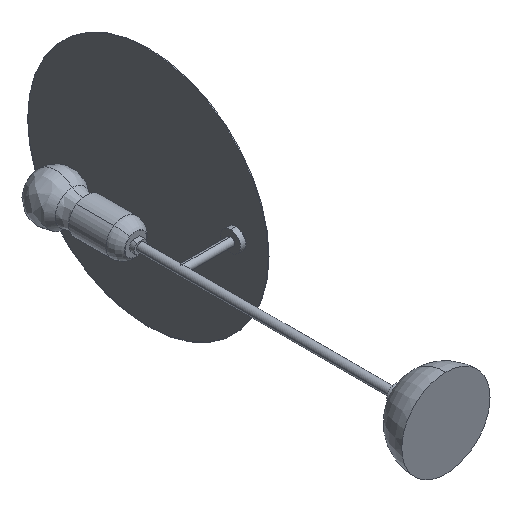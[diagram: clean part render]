
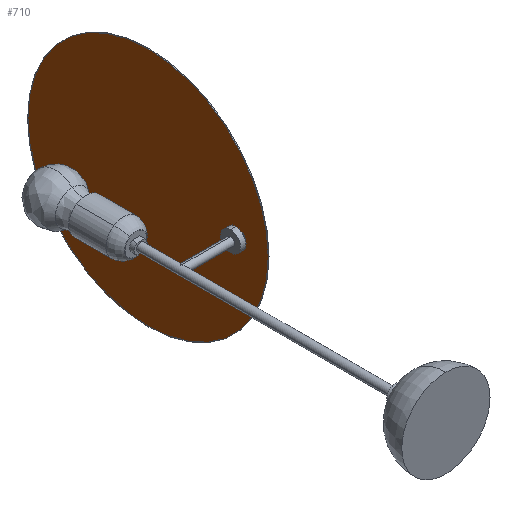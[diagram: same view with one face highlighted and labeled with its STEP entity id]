
A CAD part, isometric view. The second image highlights one B-rep face of the part: STEP entity #710.
In plain terms, the highlighted planar face has unit normal (-1, 0, 0).
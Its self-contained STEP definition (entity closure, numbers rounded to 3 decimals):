
#73 = CARTESIAN_POINT ( 'NONE',  ( 68.5, 330.5, 2.1 ) ) ;
#88 = CARTESIAN_POINT ( 'NONE',  ( 68.5, 340., -1.6 ) ) ;
#98 = CIRCLE ( 'NONE', #4547, 150. ) ;
#159 = PLANE ( 'NONE',  #741 ) ;
#172 = CARTESIAN_POINT ( 'NONE',  ( 68.5, 440., 0. ) ) ;
#226 = EDGE_LOOP ( 'NONE', ( #370, #1546 ) ) ;
#267 = EDGE_CURVE ( 'NONE', #1694, #2082, #3041, .T. ) ;
#268 = CARTESIAN_POINT ( 'NONE',  ( 68.5, 440., 0. ) ) ;
#301 = DIRECTION ( 'NONE',  ( 0., 0., -1. ) ) ;
#370 = ORIENTED_EDGE ( 'NONE', *, *, #1932, .F. ) ;
#570 = DIRECTION ( 'NONE',  ( 0., 0., -1. ) ) ;
#648 = CARTESIAN_POINT ( 'NONE',  ( 68.5, 340., 1.6 ) ) ;
#668 = DIRECTION ( 'NONE',  ( 0., 0., -1. ) ) ;
#710 = ADVANCED_FACE ( 'NONE', ( #2888, #744, #4863 ), #159, .F. ) ;
#741 = AXIS2_PLACEMENT_3D ( 'NONE', #172, #2955, #570 ) ;
#744 = FACE_BOUND ( 'NONE', #3409, .T. ) ;
#813 = DIRECTION ( 'NONE',  ( -1., 0., 0. ) ) ;
#884 = ORIENTED_EDGE ( 'NONE', *, *, #4249, .F. ) ;
#958 = CIRCLE ( 'NONE', #1615, 2.1 ) ;
#1027 = EDGE_CURVE ( 'NONE', #4960, #2885, #3820, .T. ) ;
#1147 = DIRECTION ( 'NONE',  ( -1., 0., 0. ) ) ;
#1208 = CARTESIAN_POINT ( 'NONE',  ( 68.5, 330.5, 0. ) ) ;
#1249 = VERTEX_POINT ( 'NONE', #4594 ) ;
#1546 = ORIENTED_EDGE ( 'NONE', *, *, #3425, .F. ) ;
#1610 = DIRECTION ( 'NONE',  ( 0., 0., -1. ) ) ;
#1615 = AXIS2_PLACEMENT_3D ( 'NONE', #4719, #2356, #5115 ) ;
#1694 = VERTEX_POINT ( 'NONE', #1986 ) ;
#1800 = AXIS2_PLACEMENT_3D ( 'NONE', #3527, #1147, #3931 ) ;
#1932 = EDGE_CURVE ( 'NONE', #1249, #4917, #958, .T. ) ;
#1986 = CARTESIAN_POINT ( 'NONE',  ( 68.5, 440., -150. ) ) ;
#2082 = VERTEX_POINT ( 'NONE', #4742 ) ;
#2267 = AXIS2_PLACEMENT_3D ( 'NONE', #5050, #2690, #301 ) ;
#2356 = DIRECTION ( 'NONE',  ( -1., 0., 0. ) ) ;
#2690 = DIRECTION ( 'NONE',  ( 1., 0., 0. ) ) ;
#2714 = ORIENTED_EDGE ( 'NONE', *, *, #267, .F. ) ;
#2885 = VERTEX_POINT ( 'NONE', #88 ) ;
#2888 = FACE_BOUND ( 'NONE', #226, .T. ) ;
#2955 = DIRECTION ( 'NONE',  ( 1., 0., 0. ) ) ;
#3041 = CIRCLE ( 'NONE', #2267, 150. ) ;
#3048 = DIRECTION ( 'NONE',  ( 1., 0., 0. ) ) ;
#3190 = CARTESIAN_POINT ( 'NONE',  ( 68.5, 340., 0. ) ) ;
#3409 = EDGE_LOOP ( 'NONE', ( #4650, #3543 ) ) ;
#3425 = EDGE_CURVE ( 'NONE', #4917, #1249, #3910, .T. ) ;
#3527 = CARTESIAN_POINT ( 'NONE',  ( 68.5, 340., 0. ) ) ;
#3543 = ORIENTED_EDGE ( 'NONE', *, *, #1027, .F. ) ;
#3589 = DIRECTION ( 'NONE',  ( 0., 0., -1. ) ) ;
#3695 = AXIS2_PLACEMENT_3D ( 'NONE', #1208, #3991, #1610 ) ;
#3767 = EDGE_LOOP ( 'NONE', ( #884, #2714 ) ) ;
#3803 = AXIS2_PLACEMENT_3D ( 'NONE', #3190, #813, #3589 ) ;
#3820 = CIRCLE ( 'NONE', #1800, 1.6 ) ;
#3910 = CIRCLE ( 'NONE', #3695, 2.1 ) ;
#3931 = DIRECTION ( 'NONE',  ( 0., 0., -1. ) ) ;
#3991 = DIRECTION ( 'NONE',  ( -1., 0., 0. ) ) ;
#4249 = EDGE_CURVE ( 'NONE', #2082, #1694, #98, .T. ) ;
#4547 = AXIS2_PLACEMENT_3D ( 'NONE', #268, #3048, #668 ) ;
#4594 = CARTESIAN_POINT ( 'NONE',  ( 68.5, 330.5, -2.1 ) ) ;
#4650 = ORIENTED_EDGE ( 'NONE', *, *, #4724, .F. ) ;
#4719 = CARTESIAN_POINT ( 'NONE',  ( 68.5, 330.5, 0. ) ) ;
#4724 = EDGE_CURVE ( 'NONE', #2885, #4960, #5095, .T. ) ;
#4742 = CARTESIAN_POINT ( 'NONE',  ( 68.5, 440., 150. ) ) ;
#4863 = FACE_OUTER_BOUND ( 'NONE', #3767, .T. ) ;
#4917 = VERTEX_POINT ( 'NONE', #73 ) ;
#4960 = VERTEX_POINT ( 'NONE', #648 ) ;
#5050 = CARTESIAN_POINT ( 'NONE',  ( 68.5, 440., 0. ) ) ;
#5095 = CIRCLE ( 'NONE', #3803, 1.6 ) ;
#5115 = DIRECTION ( 'NONE',  ( 0., 0., -1. ) ) ;
